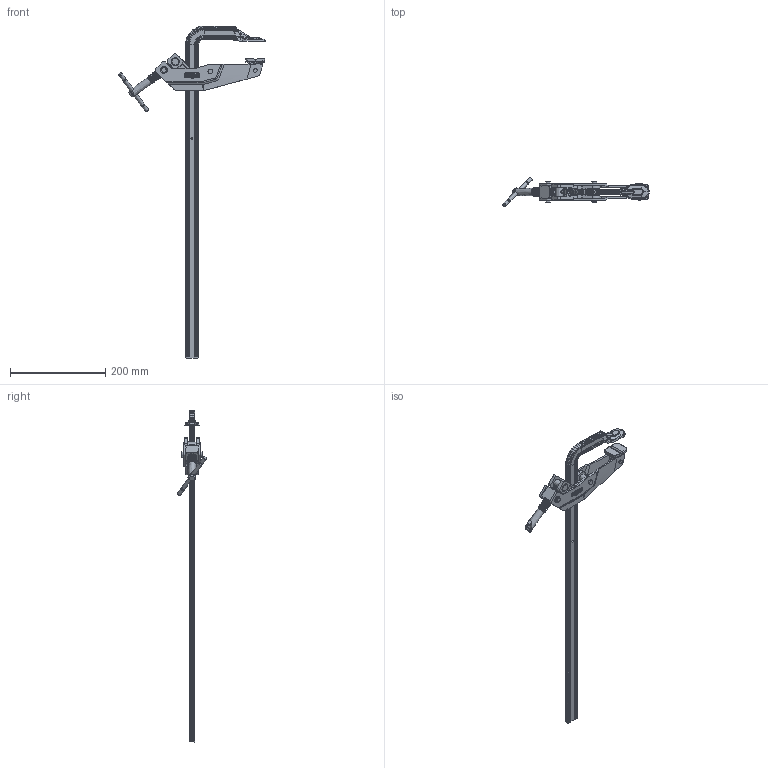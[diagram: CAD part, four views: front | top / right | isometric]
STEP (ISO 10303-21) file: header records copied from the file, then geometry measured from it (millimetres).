
FILE_DESCRIPTION( ('This file contains a STEP AP42 implementation' ,'as created by ZW3D STEP Interface translator.') ,'2;1' );
FILE_NAME( '3205081d_GRA30-121.stp' ,'18 5 2. 921 1', (''), ('ZWCAD Software Co.'), 'Version 1.0', 'ZW3D to STEP translator', '' );
FILE_SCHEMA( ('CONFIG_CONTROL_DESIGN') );
Length unit declared in the file: millimetre
Products named in the file (2): 0; 3205081d_GRA30-121
Bounding box: 308.31 x 61.21 x 697.87 mm (x, y, z)
Volume: 382817.9 mm3; surface area: 146452.8 mm2
Topology: 12 solids, 12 shells, 1295 faces, 3365 edges, 2130 vertices
Faces by surface type: bspline 1295
Entity records: 147398 total; most frequent: CARTESIAN_POINT 126409, ORIENTED_EDGE 6700, EDGE_CURVE 3350, B_SPLINE_CURVE_WITH_KNOTS 2638, VERTEX_POINT 2125, EDGE_LOOP 1377, FACE_OUTER_BOUND 1295, ADVANCED_FACE 1295
